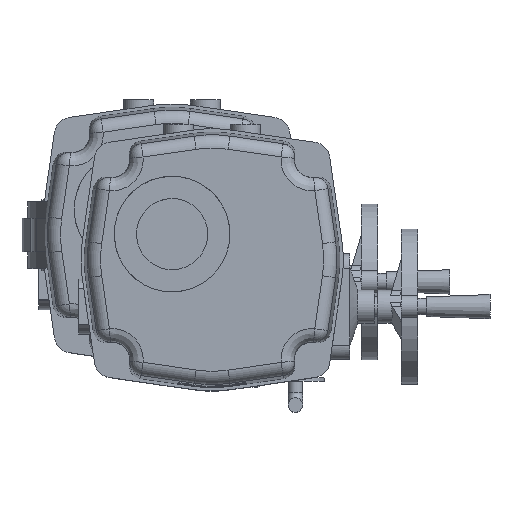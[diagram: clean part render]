
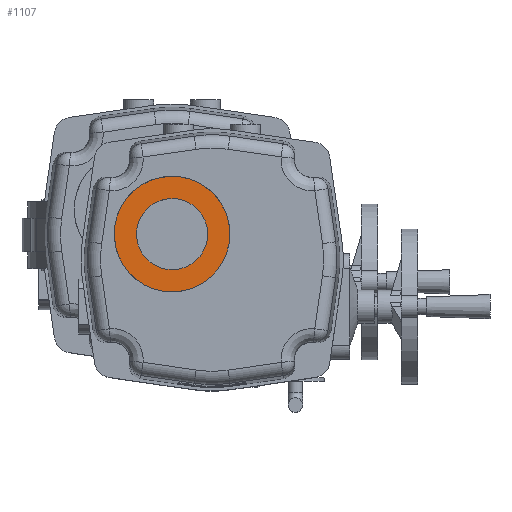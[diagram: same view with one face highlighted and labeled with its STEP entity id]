
A CAD part, top view. The second image highlights one B-rep face of the part: STEP entity #1107.
In plain terms, the highlighted planar face has unit normal (0, 0, 1).
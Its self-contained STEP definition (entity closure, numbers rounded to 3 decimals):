
#1107 = ADVANCED_FACE( '', ( #2524, #2525 ), #2526, .F. );
#2524 = FACE_BOUND( '', #7322, .T. );
#2525 = FACE_OUTER_BOUND( '', #7323, .T. );
#2526 = PLANE( '', #7324 );
#7322 = EDGE_LOOP( '', ( #12056 ) );
#7323 = EDGE_LOOP( '', ( #12057 ) );
#7324 = AXIS2_PLACEMENT_3D( '', #12058, #12059, #12060 );
#12056 = ORIENTED_EDGE( '', *, *, #15678, .T. );
#12057 = ORIENTED_EDGE( '', *, *, #15049, .F. );
#12058 = CARTESIAN_POINT( '', ( -36., 23., 165. ) );
#12059 = DIRECTION( '', ( 0., 0., -1. ) );
#12060 = DIRECTION( '', ( -1., 0., 0. ) );
#15049 = EDGE_CURVE( '', #17269, #17269, #17270, .T. );
#15678 = EDGE_CURVE( '', #18208, #18208, #18209, .T. );
#17269 = VERTEX_POINT( '', #22987 );
#17270 = CIRCLE( '', #22988, 52. );
#18208 = VERTEX_POINT( '', #26826 );
#18209 = CIRCLE( '', #26827, 32. );
#22987 = CARTESIAN_POINT( '', ( -43.473, -28.46, 165. ) );
#22988 = AXIS2_PLACEMENT_3D( '', #30188, #30189, #30190 );
#26826 = CARTESIAN_POINT( '', ( -40.599, -8.668, 165. ) );
#26827 = AXIS2_PLACEMENT_3D( '', #30827, #30828, #30829 );
#30188 = CARTESIAN_POINT( '', ( -36., 23., 165. ) );
#30189 = DIRECTION( '', ( 0., 0., -1. ) );
#30190 = DIRECTION( '', ( -0.144, -0.99, 0. ) );
#30827 = CARTESIAN_POINT( '', ( -36., 23., 165. ) );
#30828 = DIRECTION( '', ( 0., 0., -1. ) );
#30829 = DIRECTION( '', ( -0.144, -0.99, 0. ) );
